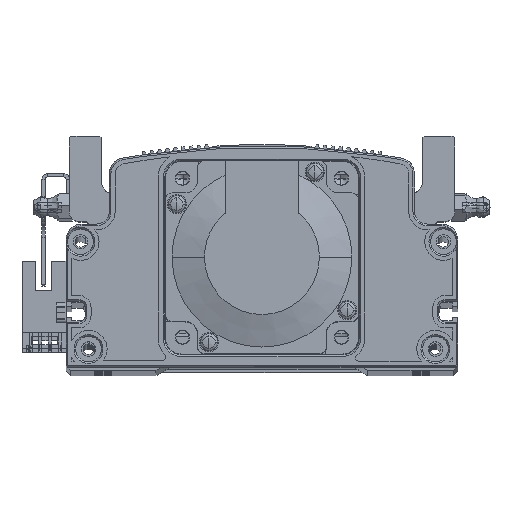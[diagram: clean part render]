
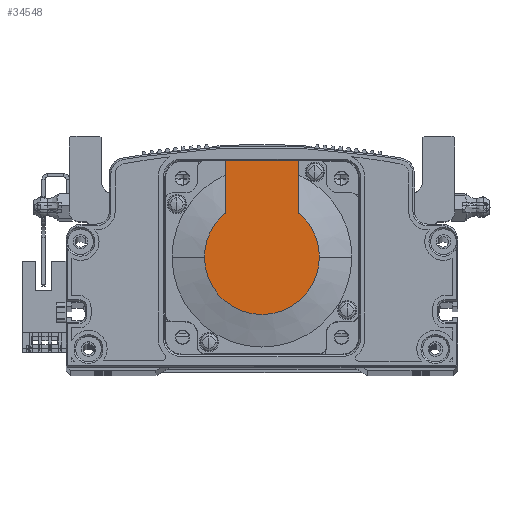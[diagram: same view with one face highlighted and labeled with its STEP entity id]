
A CAD part, top view. The second image highlights one B-rep face of the part: STEP entity #34548.
In plain terms, the highlighted planar face has unit normal (0, 0, 1) as drawn and (-1, 0, 0) by its records, which use the part's own axes.
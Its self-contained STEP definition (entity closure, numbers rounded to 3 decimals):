
#4028 = FACE_OUTER_BOUND ( 'NONE', #85573, .T. ) ;
#5883 = DIRECTION ( 'NONE',  ( 0., 0., -1. ) ) ;
#12791 = ORIENTED_EDGE ( 'NONE', *, *, #88837, .T. ) ;
#14215 = ORIENTED_EDGE ( 'NONE', *, *, #62686, .T. ) ;
#14433 = ORIENTED_EDGE ( 'NONE', *, *, #85887, .T. ) ;
#15522 = AXIS2_PLACEMENT_3D ( 'NONE', #33041, #61648, #5883 ) ;
#19240 = CARTESIAN_POINT ( 'NONE',  ( -118.5, 30., 25. ) ) ;
#19282 = CARTESIAN_POINT ( 'NONE',  ( -118.5, -8.941, 0. ) ) ;
#19906 = CARTESIAN_POINT ( 'NONE',  ( -118.5, -8.941, -11.45 ) ) ;
#21427 = AXIS2_PLACEMENT_3D ( 'NONE', #33404, #60824, #59926 ) ;
#23897 = CARTESIAN_POINT ( 'NONE',  ( -118.5, 0., -17.881 ) ) ;
#24823 = CARTESIAN_POINT ( 'NONE',  ( -118.5, 13.735, -11.45 ) ) ;
#25203 = CARTESIAN_POINT ( 'NONE',  ( -118.5, 0., 11.45 ) ) ;
#25545 = ORIENTED_EDGE ( 'NONE', *, *, #72675, .F. ) ;
#26363 = CARTESIAN_POINT ( 'NONE',  ( -118.5, 30., -11.45 ) ) ;
#26639 = DIRECTION ( 'NONE',  ( -1., 0., 0. ) ) ;
#28291 = AXIS2_PLACEMENT_3D ( 'NONE', #19282, #26639, #82598 ) ;
#33041 = CARTESIAN_POINT ( 'NONE',  ( -118.5, 0., 0. ) ) ;
#33404 = CARTESIAN_POINT ( 'NONE',  ( -118.5, 0., 0. ) ) ;
#33970 = DIRECTION ( 'NONE',  ( 0., -1., 0. ) ) ;
#34548 = ADVANCED_FACE ( 'NONE', ( #4028 ), #75017, .T. ) ;
#39036 = CARTESIAN_POINT ( 'NONE',  ( -118.5, 30., 11.45 ) ) ;
#39361 = DIRECTION ( 'NONE',  ( 0., 0., -1. ) ) ;
#40297 = VERTEX_POINT ( 'NONE', #58802 ) ;
#41528 = LINE ( 'NONE', #19906, #45909 ) ;
#42227 = CIRCLE ( 'NONE', #15522, 17.881 ) ;
#45909 = VECTOR ( 'NONE', #33970, 1000. ) ;
#47617 = DIRECTION ( 'NONE',  ( 0., 0., 1. ) ) ;
#52768 = VERTEX_POINT ( 'NONE', #60710 ) ;
#53657 = CARTESIAN_POINT ( 'NONE',  ( -118.5, 0., 0. ) ) ;
#54464 = EDGE_CURVE ( 'NONE', #75961, #52768, #82100, .T. ) ;
#58802 = CARTESIAN_POINT ( 'NONE',  ( -118.5, 0., 17.881 ) ) ;
#59121 = ORIENTED_EDGE ( 'NONE', *, *, #90308, .T. ) ;
#59926 = DIRECTION ( 'NONE',  ( 0., 0., -1. ) ) ;
#60419 = CIRCLE ( 'NONE', #21427, 17.881 ) ;
#60710 = CARTESIAN_POINT ( 'NONE',  ( -118.5, 13.735, 11.45 ) ) ;
#60824 = DIRECTION ( 'NONE',  ( -1., 0., 0. ) ) ;
#61648 = DIRECTION ( 'NONE',  ( -1., 0., 0. ) ) ;
#62686 = EDGE_CURVE ( 'NONE', #83295, #70725, #41528, .T. ) ;
#66910 = DIRECTION ( 'NONE',  ( 0., -1., 0. ) ) ;
#66915 = VECTOR ( 'NONE', #47617, 1000. ) ;
#67061 = AXIS2_PLACEMENT_3D ( 'NONE', #53657, #73729, #39361 ) ;
#70725 = VERTEX_POINT ( 'NONE', #24823 ) ;
#71240 = VECTOR ( 'NONE', #66910, 1000. ) ;
#72465 = VERTEX_POINT ( 'NONE', #23897 ) ;
#72675 = EDGE_CURVE ( 'NONE', #83295, #75961, #81000, .T. ) ;
#73729 = DIRECTION ( 'NONE',  ( -1., 0., 0. ) ) ;
#75017 = PLANE ( 'NONE',  #28291 ) ;
#75961 = VERTEX_POINT ( 'NONE', #39036 ) ;
#79763 = ORIENTED_EDGE ( 'NONE', *, *, #54464, .F. ) ;
#81000 = LINE ( 'NONE', #19240, #66915 ) ;
#82100 = LINE ( 'NONE', #25203, #71240 ) ;
#82598 = DIRECTION ( 'NONE',  ( 0., 0., 1. ) ) ;
#83295 = VERTEX_POINT ( 'NONE', #26363 ) ;
#85144 = CIRCLE ( 'NONE', #67061, 17.881 ) ;
#85573 = EDGE_LOOP ( 'NONE', ( #14215, #14433, #12791, #59121, #79763, #25545 ) ) ;
#85887 = EDGE_CURVE ( 'NONE', #70725, #72465, #42227, .T. ) ;
#88837 = EDGE_CURVE ( 'NONE', #72465, #40297, #60419, .T. ) ;
#90308 = EDGE_CURVE ( 'NONE', #40297, #52768, #85144, .T. ) ;
